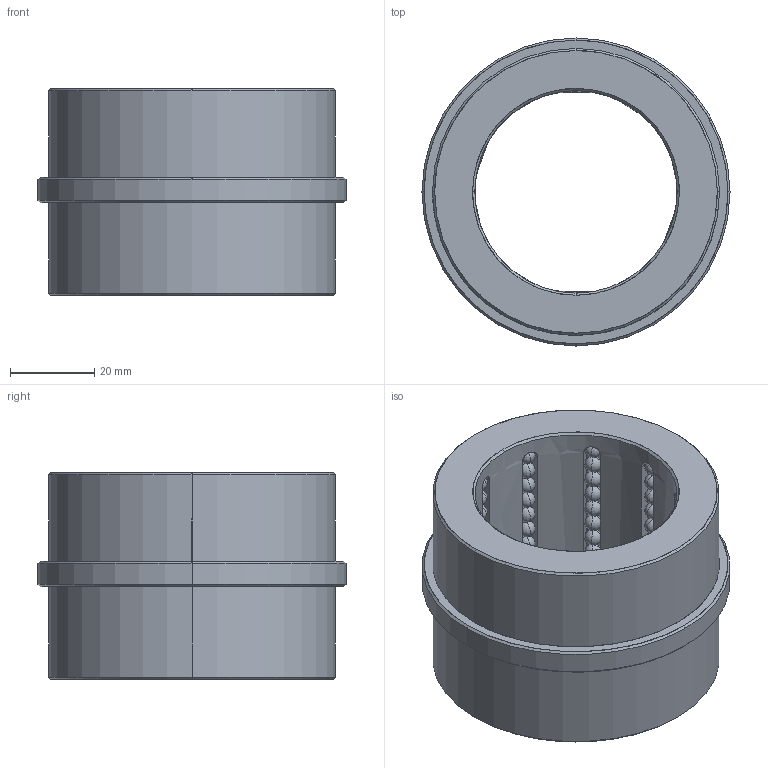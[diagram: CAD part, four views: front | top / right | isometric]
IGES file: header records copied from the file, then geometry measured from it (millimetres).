
Start section: START RECORD GO HERE.
Global section: file name: B8454836.igs; native system: DASSAULT SYSTEMES CATIA V5 R20 - www.3ds.com; preprocessor: CATIA Version 5 Release 20 ; author: Utente; organization: NB04-ASUS; date: 20200419.201307; units: millimetre
Bounding box: 73 x 73 x 49 mm (x, y, z)
Surface area: 30877.1 mm2 (no closed solid volume)
Topology: 0 solids, 0 shells, 486 faces, 2020 edges, 1220 vertices
Faces by surface type: revolution 452, plane 34
